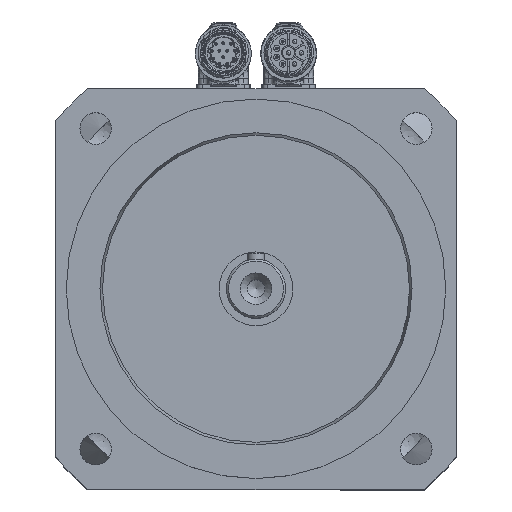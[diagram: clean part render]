
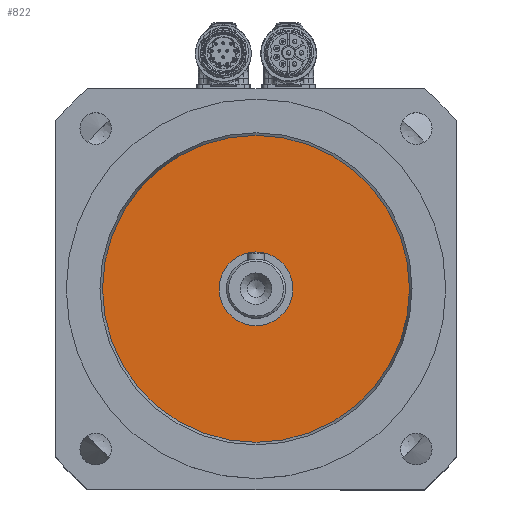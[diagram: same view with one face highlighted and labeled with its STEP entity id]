
A CAD part, top view. The second image highlights one B-rep face of the part: STEP entity #822.
In plain terms, the highlighted planar face has unit normal (0, 0, 1).
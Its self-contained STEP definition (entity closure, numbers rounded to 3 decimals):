
#639=CARTESIAN_POINT('',(17.5,0.,270.5));
#640=VERTEX_POINT('',#639);
#641=CARTESIAN_POINT('',(0.0,0.0,270.5));
#642=DIRECTION('',(0.0,0.0,-1.0));
#643=DIRECTION('',(-1.0,0.0,0.0));
#644=AXIS2_PLACEMENT_3D('',#641,#642,#643);
#645=CIRCLE('',#644,17.5);
#646=EDGE_CURVE('',#640,#640,#645,.T.);
#803=CARTESIAN_POINT('',(0.0,0.0,270.5));
#804=DIRECTION('',(0.0,0.0,-1.0));
#805=DIRECTION('',(-1.0,0.0,0.0));
#806=AXIS2_PLACEMENT_3D('',#803,#804,#805);
#807=PLANE('',#806);
#808=CARTESIAN_POINT('',(72.794,0.,270.5));
#809=VERTEX_POINT('',#808);
#810=CARTESIAN_POINT('',(0.0,0.0,270.5));
#811=DIRECTION('',(0.0,0.0,1.0));
#812=DIRECTION('',(-1.0,0.0,0.0));
#813=AXIS2_PLACEMENT_3D('',#810,#811,#812);
#814=CIRCLE('',#813,72.794);
#815=EDGE_CURVE('',#809,#809,#814,.T.);
#816=ORIENTED_EDGE('',*,*,#815,.T.);
#817=EDGE_LOOP('',(#816));
#818=FACE_OUTER_BOUND('',#817,.T.);
#819=ORIENTED_EDGE('',*,*,#646,.T.);
#820=EDGE_LOOP('',(#819));
#821=FACE_BOUND('',#820,.T.);
#822=ADVANCED_FACE('',(#818,#821),#807,.F.);
